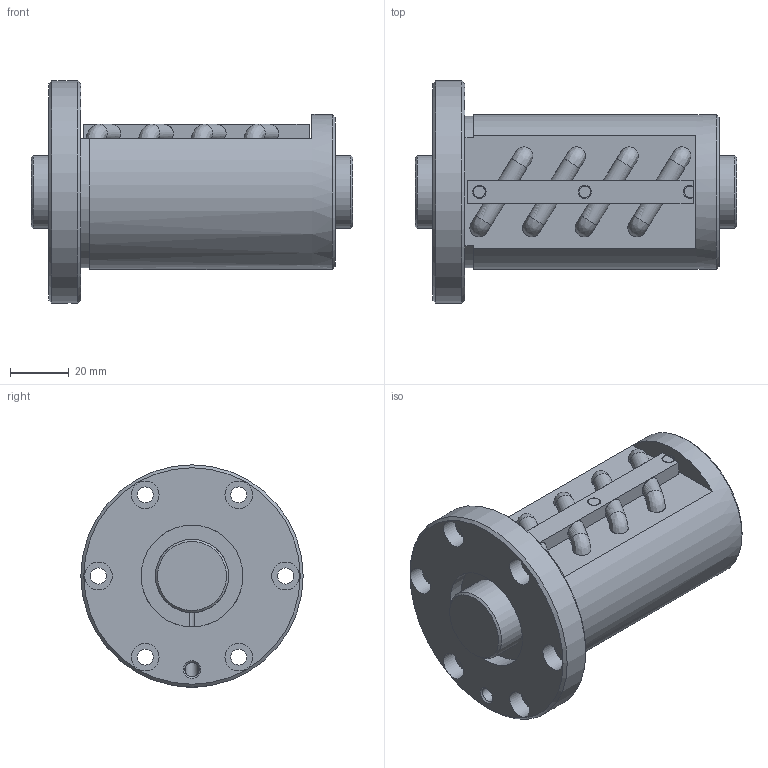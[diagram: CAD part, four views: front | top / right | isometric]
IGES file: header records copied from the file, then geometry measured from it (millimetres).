
Start section: Data from Parasolid IGES Translator 26.0.171, Copyright(c) 2006 Siemens PLM Software. All Rights Reserved.
Global section: file name: BIF2506V-10RRG0+110LC0_000.igs; native system: By Siemens PLM Incorporated; preprocessor: XPlus GENERIC/IGES 26.0.171; author: Noname; organization: Noname; date: 20240715.081733; units: millimetre
Bounding box: 110 x 76 x 76 mm (x, y, z)
Surface area: 45812.6 mm2 (no closed solid volume)
Topology: 0 solids, 0 shells, 118 faces, 576 edges, 538 vertices
Faces by surface type: revolution 63, extrusion 55
